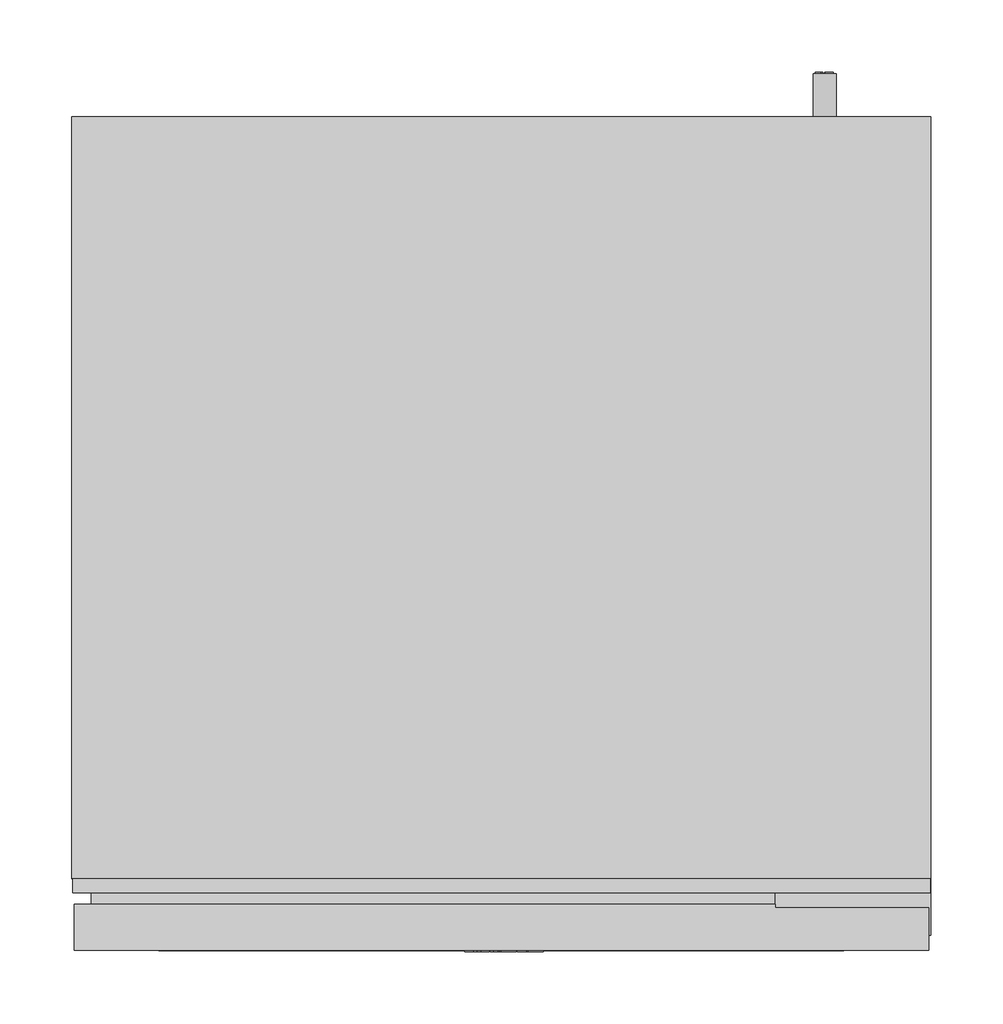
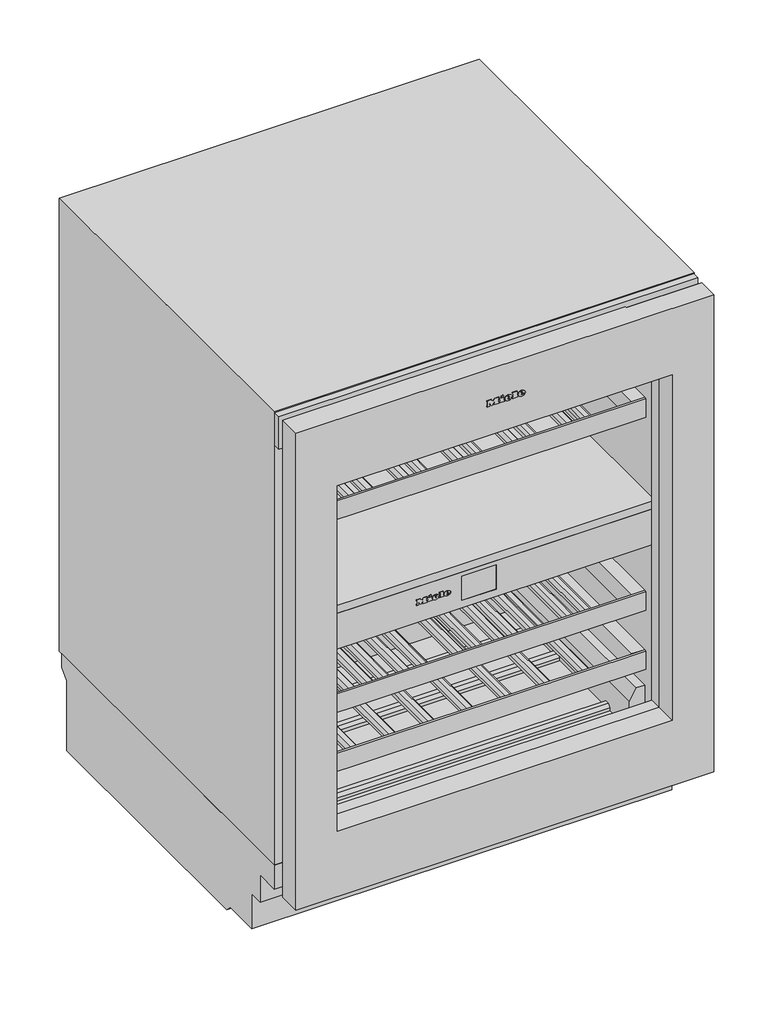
# Not in any storey: 1 proxy.
"""IFC4 building model written with IfcOpenShell, lengths in millimetres."""

from ifc_helpers import new_model, si_unit, origin, place, context, project, spatial, transform, mapped, element, save
from components import specialty_equipment_0739b71f

model = new_model("IFC4")

# Units and contexts
model_context = context("Model", 3, world=origin())
ifc_project = project(units=[si_unit("LENGTHUNIT", "METRE", prefix="MILLI")], contexts=[model_context])

# Site, building
site = spatial("IfcSite", under=ifc_project)
building = spatial("IfcBuilding", under=site)

# Proxy
placement = place(None, origin())
specialty_equipment_shape = specialty_equipment_0739b71f(model_context)
element("IfcBuildingElementProxy", 1, Name="12792310_OER_KWTUS7096E_OBSW : 39709610_OER_12792310_KWTUS7096E_OBSW", ObjectType="12792310_OER_KWTUS7096E_OBSW : 39709610_OER_12792310_KWTUS7096E_OBSW", at=placement, inside=building, context=model_context, shape_type="MappedRepresentation", body=[
    mapped(specialty_equipment_shape, transform((0.0, 0.0, 0.0), x_axis=(1.0, 0.0, 0.0), y_axis=(0.0, 1.0, 0.0), z_axis=(0.0, 0.0, 1.0))),
])

save(model, "model.ifc")
